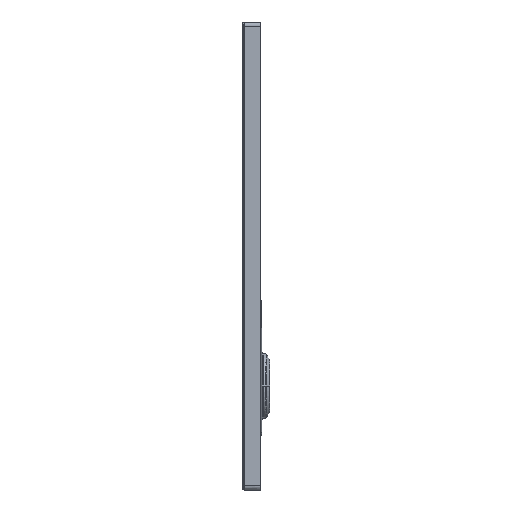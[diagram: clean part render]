
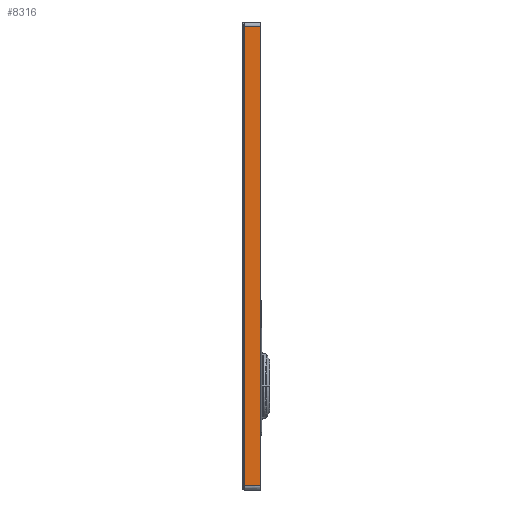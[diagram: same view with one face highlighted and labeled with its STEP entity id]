
A CAD part, left-side view. The second image highlights one B-rep face of the part: STEP entity #8316.
In plain terms, the highlighted planar face has unit normal (-1, 0, 0).
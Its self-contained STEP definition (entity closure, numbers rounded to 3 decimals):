
#2361=DIRECTION('',(0.,1.,0.));
#2362=VECTOR('',#2361,30.958);
#2363=CARTESIAN_POINT('',(-600.,-35.,-192.));
#2364=LINE('',#2363,#2362);
#2365=CARTESIAN_POINT('',(-600.,-4.042,-192.));
#2366=CARTESIAN_POINT('',(-600.,-4.067,
-187.461));
#2367=CARTESIAN_POINT('',(-600.,-4.117,
-178.605));
#2368=CARTESIAN_POINT('',(-600.,-4.186,
-166.189));
#2369=CARTESIAN_POINT('',(-600.,-4.248,
-154.015));
#2370=CARTESIAN_POINT('',(-600.,-4.299,
-142.021));
#2371=CARTESIAN_POINT('',(-600.,-4.341,
-130.014));
#2372=CARTESIAN_POINT('',(-600.,-4.37,-117.968));
#2373=CARTESIAN_POINT('',(-600.,-4.386,-105.94));
#2374=CARTESIAN_POINT('',(-600.,-4.392,-93.922));
#2375=CARTESIAN_POINT('',(-600.,-4.388,-81.894));
#2376=CARTESIAN_POINT('',(-600.,-4.377,-69.883));
#2377=CARTESIAN_POINT('',(-600.,-4.361,-57.913));
#2378=CARTESIAN_POINT('',(-600.,-4.344,-45.948));
#2379=CARTESIAN_POINT('',(-600.,-4.327,-33.966));
#2380=CARTESIAN_POINT('',(-600.,-4.312,-22.03));
#2381=CARTESIAN_POINT('',(-600.,-4.299,-10.024));
#2382=CARTESIAN_POINT('',(-600.,-4.288,2.442));
#2383=CARTESIAN_POINT('',(-600.,-4.279,15.834));
#2384=CARTESIAN_POINT('',(-600.,-4.273,30.569));
#2385=CARTESIAN_POINT('',(-600.,-4.268,46.772));
#2386=CARTESIAN_POINT('',(-600.,-4.265,64.355));
#2387=CARTESIAN_POINT('',(-600.,-4.263,83.328));
#2388=CARTESIAN_POINT('',(-600.,-4.262,103.829));
#2389=CARTESIAN_POINT('',(-600.,-4.262,126.033));
#2390=CARTESIAN_POINT('',(-600.,-4.263,150.091));
#2391=CARTESIAN_POINT('',(-600.,-4.263,176.143));
#2392=CARTESIAN_POINT('',(-600.,-4.262,204.345));
#2393=CARTESIAN_POINT('',(-600.,-4.26,234.863));
#2394=CARTESIAN_POINT('',(-600.,-4.258,268.015));
#2395=CARTESIAN_POINT('',(-600.,-4.255,303.412));
#2396=CARTESIAN_POINT('',(-600.,-4.251,338.288));
#2397=CARTESIAN_POINT('',(-600.,-4.249,369.995));
#2398=CARTESIAN_POINT('',(-600.,-4.248,398.104));
#2399=CARTESIAN_POINT('',(-600.,-4.249,423.157));
#2400=CARTESIAN_POINT('',(-600.,-4.25,445.769));
#2401=CARTESIAN_POINT('',(-600.,-4.253,466.301));
#2402=CARTESIAN_POINT('',(-600.,-4.257,484.988));
#2403=CARTESIAN_POINT('',(-600.,-4.262,501.959));
#2404=CARTESIAN_POINT('',(-600.,-4.267,517.26));
#2405=CARTESIAN_POINT('',(-600.,-4.274,531.095));
#2406=CARTESIAN_POINT('',(-600.,-4.28,543.849));
#2407=CARTESIAN_POINT('',(-600.,-4.288,555.976));
#2408=CARTESIAN_POINT('',(-600.,-4.296,567.927));
#2409=CARTESIAN_POINT('',(-600.,-4.306,579.909));
#2410=CARTESIAN_POINT('',(-600.,-4.318,591.888));
#2411=CARTESIAN_POINT('',(-600.,-4.331,
603.861));
#2412=CARTESIAN_POINT('',(-600.,-4.346,
615.869));
#2413=CARTESIAN_POINT('',(-600.,-4.362,
627.928));
#2414=CARTESIAN_POINT('',(-600.,-4.369,
640.126));
#2415=CARTESIAN_POINT('',(-600.,-4.351,
651.952));
#2416=CARTESIAN_POINT('',(-600.,-4.299,
663.975));
#2417=CARTESIAN_POINT('',(-600.,-4.206,
676.908));
#2418=CARTESIAN_POINT('',(-600.,-4.117,
686.795));
#2419=CARTESIAN_POINT('',(-600.,-4.071,692.));
#2421=DIRECTION('',(0.,1.,0.));
#2422=VECTOR('',#2421,30.929);
#2423=CARTESIAN_POINT('',(-600.,-35.,692.));
#2424=LINE('',#2423,#2422);
#2653=DIRECTION('',(0.,0.,1.));
#2654=VECTOR('',#2653,884.);
#2655=CARTESIAN_POINT('',(-600.,-35.,-192.));
#2656=LINE('',#2655,#2654);
#5672=CARTESIAN_POINT('',(-600.,-35.,-192.));
#5673=CARTESIAN_POINT('',(-600.,-35.,692.));
#5674=VERTEX_POINT('',#5672);
#5675=VERTEX_POINT('',#5673);
#5688=CARTESIAN_POINT('',(-600.,-4.042,-192.));
#5689=VERTEX_POINT('',#5688);
#5702=CARTESIAN_POINT('',(-600.,-4.071,692.));
#5703=VERTEX_POINT('',#5702);
#8303=CARTESIAN_POINT('',(-600.,0.,-200.));
#8304=DIRECTION('',(-1.,0.,0.));
#8305=DIRECTION('',(0.,0.,1.));
#8306=AXIS2_PLACEMENT_3D('',#8303,#8304,#8305);
#8307=PLANE('',#8306);
#8308=ORIENTED_EDGE('',*,*,#8294,.T.);
#8309=ORIENTED_EDGE('',*,*,#7330,.T.);
#8311=ORIENTED_EDGE('',*,*,#8310,.F.);
#8313=ORIENTED_EDGE('',*,*,#8312,.F.);
#8314=EDGE_LOOP('',(#8308,#8309,#8311,#8313));
#8315=FACE_OUTER_BOUND('',#8314,.F.);
#2420=B_SPLINE_CURVE_WITH_KNOTS('',3,(#2365,#2366,#2367,#2368,#2369,#2370,#2371,
#2372,#2373,#2374,#2375,#2376,#2377,#2378,#2379,#2380,#2381,#2382,#2383,#2384,
#2385,#2386,#2387,#2388,#2389,#2390,#2391,#2392,#2393,#2394,#2395,#2396,#2397,
#2398,#2399,#2400,#2401,#2402,#2403,#2404,#2405,#2406,#2407,#2408,#2409,#2410,
#2411,#2412,#2413,#2414,#2415,#2416,#2417,#2418,#2419),.UNSPECIFIED.,.F.,.F.,(4,
1,1,1,1,1,1,1,1,1,1,1,1,1,1,1,1,1,1,1,1,1,1,1,1,1,1,1,1,1,1,1,1,1,1,1,1,1,1,1,1,
1,1,1,1,1,1,1,1,1,1,1,4),(0.,0.019,0.038,
0.058,0.077,0.096,0.115,
0.135,0.154,0.173,0.192,
0.212,0.231,0.25,0.269,0.288,
0.308,0.327,0.346,0.365,
0.385,0.404,0.423,0.442,
0.462,0.481,0.5,0.519,0.538,
0.558,0.577,0.596,0.615,
0.635,0.654,0.673,0.692,
0.712,0.731,0.75,0.769,0.788,
0.808,0.827,0.846,0.865,
0.885,0.904,0.923,0.942,
0.962,0.981,1.),.UNSPECIFIED.);
#7330=EDGE_CURVE('',#5689,#5703,#2420,.T.);
#8294=EDGE_CURVE('',#5674,#5689,#2364,.T.);
#8310=EDGE_CURVE('',#5675,#5703,#2424,.T.);
#8312=EDGE_CURVE('',#5674,#5675,#2656,.T.);
#8316=ADVANCED_FACE('',(#8315),#8307,.T.);
